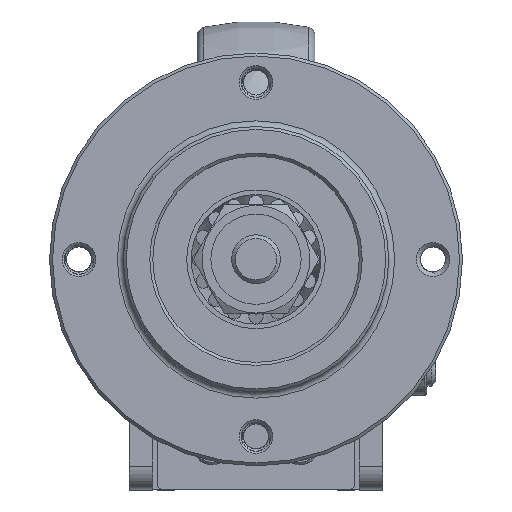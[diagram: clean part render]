
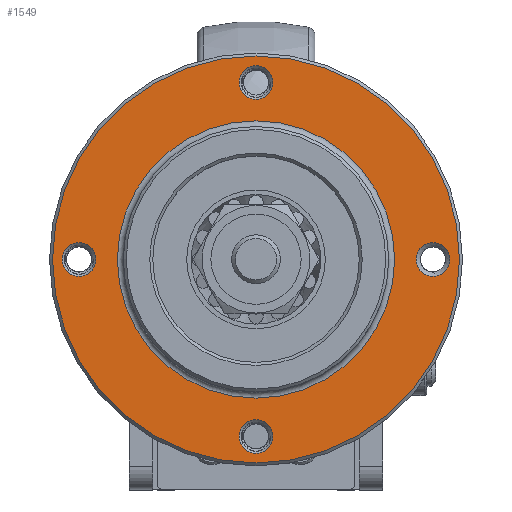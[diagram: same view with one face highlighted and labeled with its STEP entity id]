
A CAD part, top view. The second image highlights one B-rep face of the part: STEP entity #1549.
In plain terms, the highlighted planar face has unit normal (0, 0, 1).
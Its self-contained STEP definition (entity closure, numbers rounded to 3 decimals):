
#1549=ADVANCED_FACE('',(#4685,#4686,#4687,#4688,#4689,#4690),#2624,.T.);
#2624=PLANE('',#18574);
#3952=CIRCLE('',#18568,47.);
#3953=CIRCLE('',#18569,69.);
#3954=CIRCLE('',#18570,5.75);
#3955=CIRCLE('',#18571,5.75);
#3956=CIRCLE('',#18572,5.75);
#3957=CIRCLE('',#18573,5.75);
#4685=FACE_BOUND('',#5425,.T.);
#4686=FACE_BOUND('',#5426,.T.);
#4687=FACE_BOUND('',#5427,.T.);
#4688=FACE_BOUND('',#5428,.T.);
#4689=FACE_BOUND('',#5429,.T.);
#4690=FACE_BOUND('',#5430,.T.);
#5425=EDGE_LOOP('',(#7286));
#5426=EDGE_LOOP('',(#7287));
#5427=EDGE_LOOP('',(#7288));
#5428=EDGE_LOOP('',(#7289));
#5429=EDGE_LOOP('',(#7290));
#5430=EDGE_LOOP('',(#7291));
#7286=ORIENTED_EDGE('',*,*,#14092,.T.);
#7287=ORIENTED_EDGE('',*,*,#14093,.T.);
#7288=ORIENTED_EDGE('',*,*,#14094,.T.);
#7289=ORIENTED_EDGE('',*,*,#14095,.T.);
#7290=ORIENTED_EDGE('',*,*,#14096,.T.);
#7291=ORIENTED_EDGE('',*,*,#14097,.T.);
#12314=VERTEX_POINT('',#27104);
#12315=VERTEX_POINT('',#27106);
#12316=VERTEX_POINT('',#27108);
#12317=VERTEX_POINT('',#27110);
#12318=VERTEX_POINT('',#27112);
#12319=VERTEX_POINT('',#27114);
#14092=EDGE_CURVE('',#12314,#12314,#3952,.T.);
#14093=EDGE_CURVE('',#12315,#12315,#3953,.T.);
#14094=EDGE_CURVE('',#12316,#12316,#3954,.T.);
#14095=EDGE_CURVE('',#12317,#12317,#3955,.T.);
#14096=EDGE_CURVE('',#12318,#12318,#3956,.T.);
#14097=EDGE_CURVE('',#12319,#12319,#3957,.T.);
#18568=AXIS2_PLACEMENT_3D('',#27103,#20823,#20824);
#18569=AXIS2_PLACEMENT_3D('',#27105,#20825,#20826);
#18570=AXIS2_PLACEMENT_3D('',#27107,#20827,#20828);
#18571=AXIS2_PLACEMENT_3D('',#27109,#20829,#20830);
#18572=AXIS2_PLACEMENT_3D('',#27111,#20831,#20832);
#18573=AXIS2_PLACEMENT_3D('',#27113,#20833,#20834);
#18574=AXIS2_PLACEMENT_3D('',#27115,#20835,#20836);
#20823=DIRECTION('',(0.,0.,-1.));
#20824=DIRECTION('',(1.,0.,0.));
#20825=DIRECTION('',(0.,0.,1.));
#20826=DIRECTION('',(1.,0.,0.));
#20827=DIRECTION('',(0.,0.,-1.));
#20828=DIRECTION('',(1.,0.,0.));
#20829=DIRECTION('',(0.,0.,-1.));
#20830=DIRECTION('',(1.,0.,0.));
#20831=DIRECTION('',(0.,0.,-1.));
#20832=DIRECTION('',(1.,0.,0.));
#20833=DIRECTION('',(0.,0.,-1.));
#20834=DIRECTION('',(1.,0.,0.));
#20835=DIRECTION('',(0.,0.,1.));
#20836=DIRECTION('',(1.,0.,0.));
#27103=CARTESIAN_POINT('',(0.,0.,-47.));
#27104=CARTESIAN_POINT('',(47.,0.,-47.));
#27105=CARTESIAN_POINT('',(0.,0.,-47.));
#27106=CARTESIAN_POINT('',(69.,0.,-47.));
#27107=CARTESIAN_POINT('',(60.,0.,-47.));
#27108=CARTESIAN_POINT('',(65.75,0.,-47.));
#27109=CARTESIAN_POINT('',(0.,-60.,-47.));
#27110=CARTESIAN_POINT('',(5.75,-60.,-47.));
#27111=CARTESIAN_POINT('',(0.,60.,-47.));
#27112=CARTESIAN_POINT('',(5.75,60.,-47.));
#27113=CARTESIAN_POINT('',(-60.,0.,-47.));
#27114=CARTESIAN_POINT('',(-54.25,0.,-47.));
#27115=CARTESIAN_POINT('',(0.,0.,-47.));
